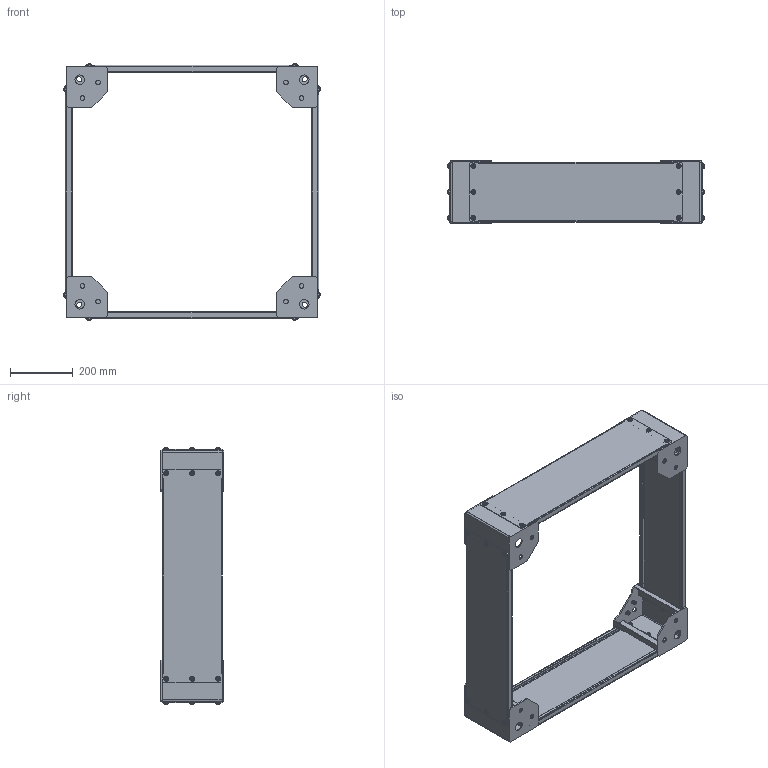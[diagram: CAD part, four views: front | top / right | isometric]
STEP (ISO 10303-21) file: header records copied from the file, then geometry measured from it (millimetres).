
FILE_DESCRIPTION (( 'STEP AP214' ), '1' );
FILE_NAME ('ZA 80.80 EQH 捘 絊膰錪.STEP', '2025-10-16T03:17:46', ( '' ), ( '' ), 'SwSTEP 2.0', 'SolidWorks 2022', '' );
FILE_SCHEMA (( 'AUTOMOTIVE_DESIGN' ));
Length unit declared in the file: millimetre
Products named in the file (6): ZA 20 EQ СБ Угол цоколя; Зеркально отразитьZA 20 EQ СБ Угол цоколя; Шайба 8 стопорная DIN 6798; Винт М8х16 ISO 7380 c фланцем (S 8.16 MX)_S 8.16 MX; ZA 80.80 EQH СБ Цоколь; ZA 60 EQ 00.001 (Д199) Панель цоколя_ZA 80 EQ 00.001 (Д199) Панель цоколя
Assembly tree (56 placements, depth 2):
  ZA 80.80 EQH СБ Цоколь
    ZA 60 EQ 00.001 (Д199) Панель цоколя_ZA 80 EQ 00.001 (Д199) Панель цоколя  x4
    Винт М8х16 ISO 7380 c фланцем (S 8.16 MX)_S 8.16 MX  x24
    Шайба 8 стопорная DIN 6798  x24
    ZA 20 EQ СБ Угол цоколя  x2
    Зеркально отразитьZA 20 EQ СБ Угол цоколя  x2
Bounding box: 817.54 x 201.3 x 817.54 mm (x, y, z)
Volume: 2513849.2 mm3; surface area: 2103058.5 mm2
Topology: 64 solids, 112 shells, 4296 faces, 11768 edges, 7808 vertices
Faces by surface type: bspline 1440, cylinder 1408, plane 1016, torus 224, cone 160, sphere 48
Entity records: 25358 total; most frequent: CARTESIAN_POINT 4699, DIRECTION 3744, ORIENTED_EDGE 3434, EDGE_CURVE 1720, AXIS2_PLACEMENT_3D 1477, VERTEX_POINT 1130, EDGE_LOOP 853, VECTOR 790
